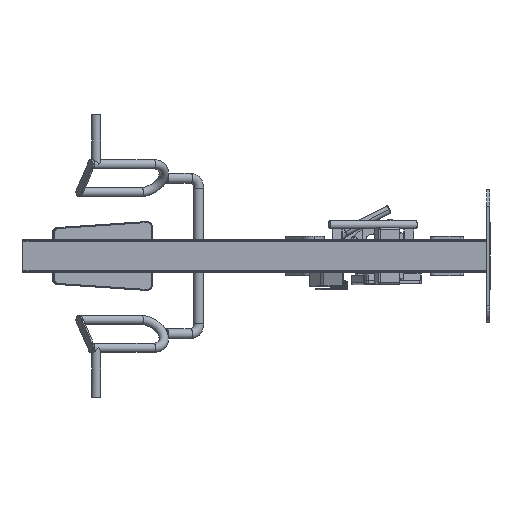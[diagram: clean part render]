
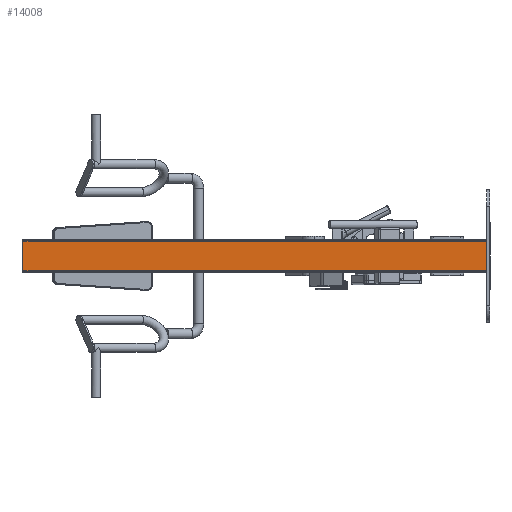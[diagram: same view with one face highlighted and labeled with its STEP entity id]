
A CAD part, left-side view. The second image highlights one B-rep face of the part: STEP entity #14008.
In plain terms, the highlighted planar face has unit normal (-1, 0, 0).
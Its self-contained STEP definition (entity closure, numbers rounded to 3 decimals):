
#2142=FACE_OUTER_BOUND('',#3068,.T.);
#3068=EDGE_LOOP('',(#12693,#12694,#12695,#12696));
#4264=LINE('',#24826,#5492);
#4267=LINE('',#24841,#5495);
#4272=LINE('',#24856,#5500);
#4296=LINE('',#24926,#5524);
#5492=VECTOR('',#19555,10.);
#5495=VECTOR('',#19568,10.);
#5500=VECTOR('',#19583,10.);
#5524=VECTOR('',#19659,10.);
#6802=VERTEX_POINT('',#24820);
#6804=VERTEX_POINT('',#24824);
#6809=VERTEX_POINT('',#24837);
#6811=VERTEX_POINT('',#24840);
#8746=EDGE_CURVE('',#6802,#6804,#4264,.T.);
#8752=EDGE_CURVE('',#6809,#6811,#4267,.T.);
#8760=EDGE_CURVE('',#6802,#6809,#4272,.T.);
#8796=EDGE_CURVE('',#6811,#6804,#4296,.T.);
#12693=ORIENTED_EDGE('',*,*,#8760,.F.);
#12694=ORIENTED_EDGE('',*,*,#8746,.T.);
#12695=ORIENTED_EDGE('',*,*,#8796,.F.);
#12696=ORIENTED_EDGE('',*,*,#8752,.F.);
#13203=PLANE('',#15532);
#14008=ADVANCED_FACE('',(#2142),#13203,.T.);
#15532=AXIS2_PLACEMENT_3D('',#24925,#19657,#19658);
#19555=DIRECTION('',(0.,-1.,0.));
#19568=DIRECTION('',(0.,-1.,0.));
#19583=DIRECTION('',(0.,0.,1.));
#19657=DIRECTION('center_axis',(-1.,0.,0.));
#19658=DIRECTION('ref_axis',(0.,0.,
1.));
#19659=DIRECTION('',(0.,0.,-1.));
#24820=CARTESIAN_POINT('',(147.,1403.,-245.));
#24824=CARTESIAN_POINT('',(147.,3.,-245.));
#24826=CARTESIAN_POINT('',(147.,1403.,-245.));
#24837=CARTESIAN_POINT('',(147.,1403.,-157.));
#24840=CARTESIAN_POINT('',(147.,3.,-157.));
#24841=CARTESIAN_POINT('',(147.,1403.,-157.));
#24856=CARTESIAN_POINT('',(147.,1403.,-161.));
#24925=CARTESIAN_POINT('Origin',(147.,-71.4,-315.4));
#24926=CARTESIAN_POINT('',(147.,3.,-245.));
